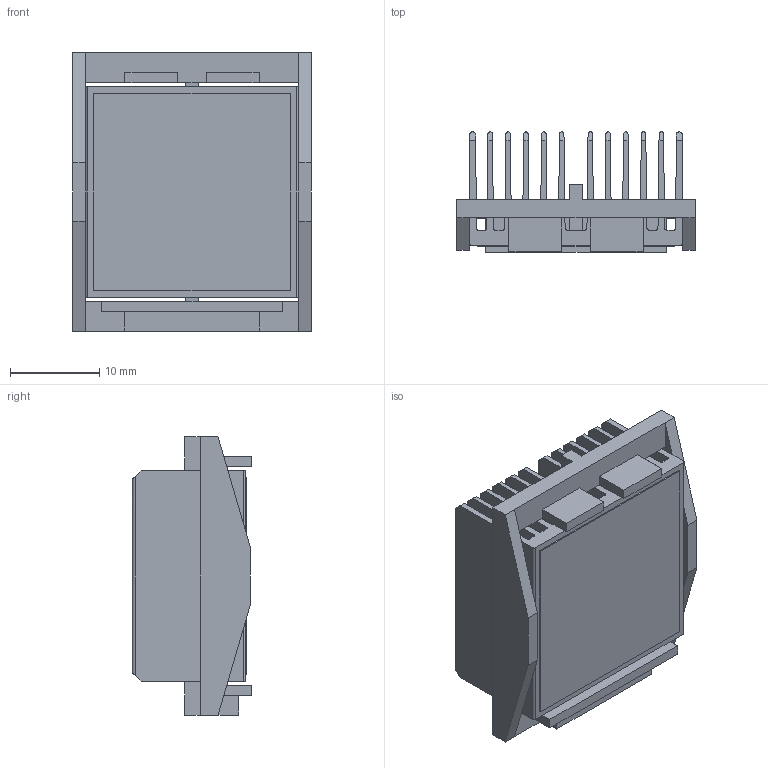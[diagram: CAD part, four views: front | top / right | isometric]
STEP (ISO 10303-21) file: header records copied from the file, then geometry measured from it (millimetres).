
FILE_DESCRIPTION (( 'STEP AP214' ), '1' );
FILE_NAME ('INL24001-13-1.7O.STEP', '2023-02-21T18:22:47', ( '' ), ( '' ), 'SwSTEP 2.0', 'SolidWorks 2020', '' );
FILE_SCHEMA (( 'AUTOMOTIVE_DESIGN' ));
Length unit declared in the file: millimetre
Products named in the file (1): INL24001-13-1.7O
Bounding box: 26.7 x 13.4 x 31.1 mm (x, y, z)
Volume: 3993.2 mm3; surface area: 10117.2 mm2
Topology: 3 solids, 3 shells, 152 faces, 440 edges, 292 vertices
Faces by surface type: plane 116, cylinder 36
Entity records: 6668 total; most frequent: CARTESIAN_POINT 957, ORIENTED_EDGE 880, DIRECTION 770, EDGE_CURVE 440, LINE 368, VECTOR 368, VERTEX_POINT 292, AXIS2_PLACEMENT_3D 201
